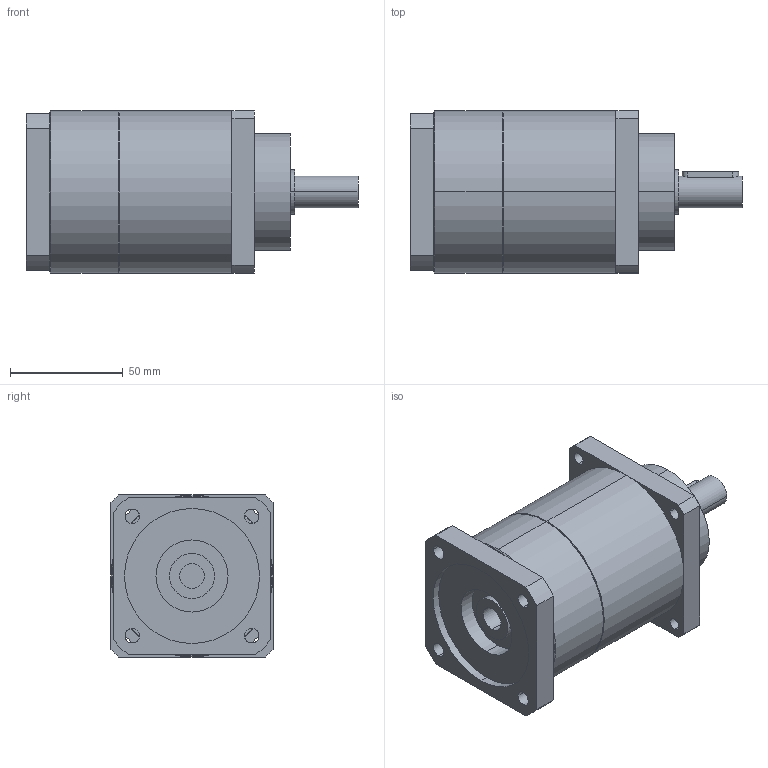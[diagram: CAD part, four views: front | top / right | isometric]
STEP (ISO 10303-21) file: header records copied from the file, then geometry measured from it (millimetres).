
FILE_DESCRIPTION(('CoCreate Modeling STEP Export'),'2;1');
FILE_NAME('GPT75_ig-9-12-16-20-25-28-35-40-50-70-100_14_B5T_11_P04.stp','2014-08-27T13:34:12',(''),(''),'CoCreate Modeling STEP processor for AP214 (Solid Model)','CoCreate Modeling 16.00C 25-Feb-2009 (C) Parametric Technology GmbH','');
FILE_SCHEMA(('AUTOMOTIVE_DESIGN { 1 0 10303 214 1 1 1 1 }'));
Length unit declared in the file: millimetre
Products named in the file (2): GPT75_ig-9-12-16-20-25-28-35-40-50-70-100_14_B5T_11_P04
Assembly tree (1 placements, depth 2):
  GPT75_ig-9-12-16-20-25-28-35-40-50-70-100_14_B5T_11_P04
    GPT75_ig-9-12-16-20-25-28-35-40-50-70-100_14_B5T_11_P04
Bounding box: 147.5 x 72 x 72 mm (x, y, z)
Volume: 451036.5 mm3; surface area: 44160.5 mm2
Topology: 1 solids, 1 shells, 88 faces, 220 edges, 139 vertices
Faces by surface type: cylinder 46, plane 38, cone 4
Entity records: 2646 total; most frequent: CARTESIAN_POINT 738, ORIENTED_EDGE 440, DIRECTION 334, EDGE_CURVE 220, VERTEX_POINT 139, AXIS2_PLACEMENT_3D 123, EDGE_LOOP 109, VECTOR 88
